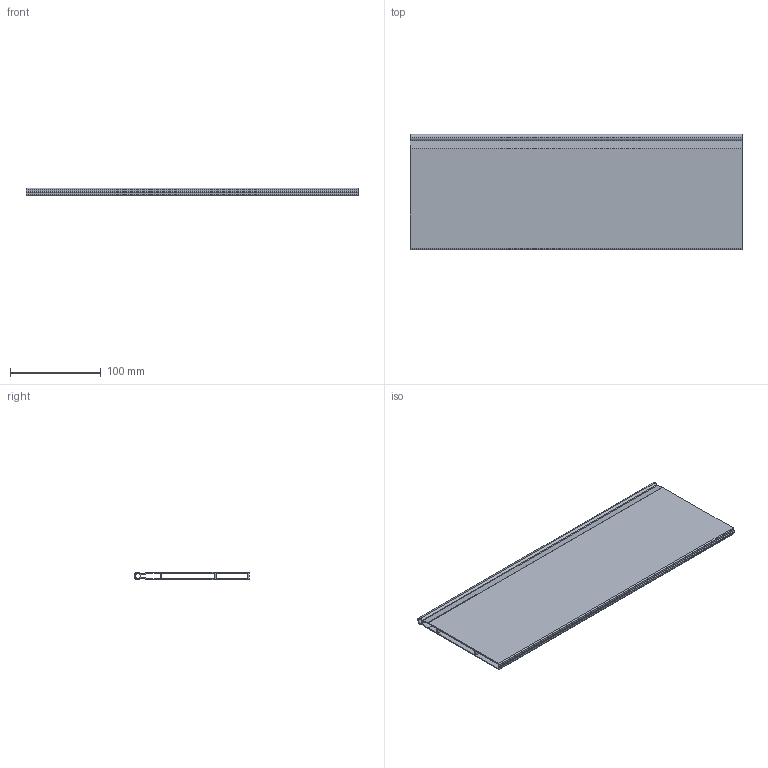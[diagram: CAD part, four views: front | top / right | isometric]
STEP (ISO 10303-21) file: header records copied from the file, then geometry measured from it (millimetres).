
FILE_DESCRIPTION (( 'STEP AP214' ), '1' );
FILE_NAME ('_Magic Optima Unterteilungsprofil DWD XP KAB 500.step', '2010-08-17T12:26:36', ( 'grass' ), ( '' ), 'SwSTEP 2.0', 'SolidWorks 2010', '' );
FILE_SCHEMA (( 'AUTOMOTIVE_DESIGN' ));
Length unit declared in the file: millimetre
Products named in the file (1): _Magic Optima Unterteilungsprofil DWD XP  KAB 500
Bounding box: 366 x 127.7 x 8.1 mm (x, y, z)
Volume: 128291.6 mm3; surface area: 199145.7 mm2
Topology: 1 solids, 1 shells, 39 faces, 111 edges, 74 vertices
Faces by surface type: plane 22, cylinder 17
Entity records: 1325 total; most frequent: DIRECTION 225, CARTESIAN_POINT 225, ORIENTED_EDGE 222, EDGE_CURVE 111, LINE 77, VECTOR 77, VERTEX_POINT 74, AXIS2_PLACEMENT_3D 74
